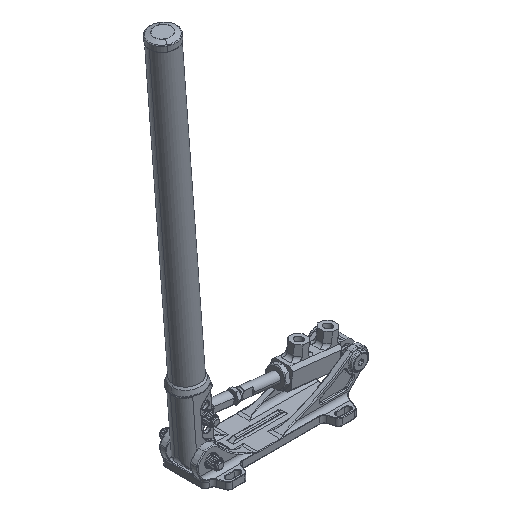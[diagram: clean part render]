
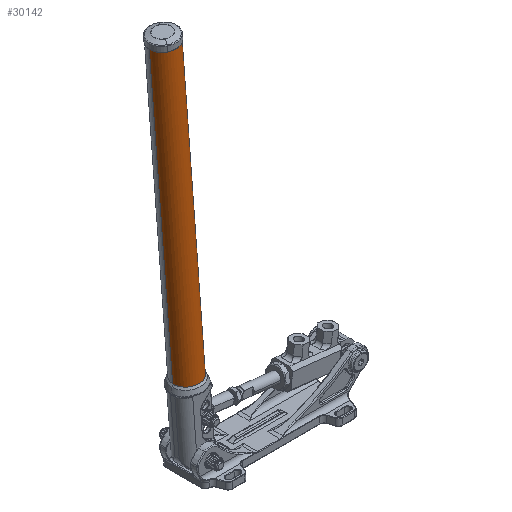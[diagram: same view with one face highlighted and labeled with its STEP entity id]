
A CAD part, isometric view. The second image highlights one B-rep face of the part: STEP entity #30142.
In plain terms, the highlighted cylindrical face has radius 15 mm (diameter 30 mm), a partial arc.
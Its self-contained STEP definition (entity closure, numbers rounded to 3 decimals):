
#94 = VERTEX_POINT ( 'NONE', #59053 ) ;
#3775 = VECTOR ( 'NONE', #40740, 1000. ) ;
#9978 = CARTESIAN_POINT ( 'NONE',  ( -147.621, 6.973, 109.669 ) ) ;
#12193 = DIRECTION ( 'NONE',  ( -0.077, 0., 0.997 ) ) ;
#12505 = AXIS2_PLACEMENT_3D ( 'NONE', #81975, #81467, #57641 ) ;
#13852 = EDGE_CURVE ( 'NONE', #94, #80234, #87240, .T. ) ;
#14504 = AXIS2_PLACEMENT_3D ( 'NONE', #20134, #12193, #60403 ) ;
#14777 = FACE_OUTER_BOUND ( 'NONE', #24349, .T. ) ;
#20134 = CARTESIAN_POINT ( 'NONE',  ( -158.844, 6.162, 449.814 ) ) ;
#22467 = CARTESIAN_POINT ( 'NONE',  ( -143.91, 5.351, 450.966 ) ) ;
#23229 = DIRECTION ( 'NONE',  ( 0.996, -0.054, 0.077 ) ) ;
#24349 = EDGE_LOOP ( 'NONE', ( #38919, #91503, #88782, #91376 ) ) ;
#24803 = LINE ( 'NONE', #91881, #3775 ) ;
#30142 = ADVANCED_FACE ( 'NONE', ( #14777 ), #47122, .T. ) ;
#34846 = VERTEX_POINT ( 'NONE', #58623 ) ;
#35468 = VECTOR ( 'NONE', #63285, 1000. ) ;
#38919 = ORIENTED_EDGE ( 'NONE', *, *, #13852, .F. ) ;
#40740 = DIRECTION ( 'NONE',  ( 0.077, 0., -0.997 ) ) ;
#47122 = CYLINDRICAL_SURFACE ( 'NONE', #102594, 15. ) ;
#53998 = EDGE_CURVE ( 'NONE', #95113, #34846, #102159, .T. ) ;
#57641 = DIRECTION ( 'NONE',  ( -0.996, 0.054, -0.077 ) ) ;
#58623 = CARTESIAN_POINT ( 'NONE',  ( -117.753, 5.351, 111.973 ) ) ;
#59053 = CARTESIAN_POINT ( 'NONE',  ( -173.777, 6.973, 448.661 ) ) ;
#60403 = DIRECTION ( 'NONE',  ( -0.996, 0.054, -0.077 ) ) ;
#63285 = DIRECTION ( 'NONE',  ( 0.077, 0., -0.997 ) ) ;
#79438 = DIRECTION ( 'NONE',  ( 0.077, 0., -0.997 ) ) ;
#80234 = VERTEX_POINT ( 'NONE', #99303 ) ;
#81344 = EDGE_CURVE ( 'NONE', #94, #95113, #24803, .T. ) ;
#81467 = DIRECTION ( 'NONE',  ( -0.077, 0., 0.997 ) ) ;
#81975 = CARTESIAN_POINT ( 'NONE',  ( -132.687, 6.162, 110.821 ) ) ;
#87240 = CIRCLE ( 'NONE', #14504, 15. ) ;
#88782 = ORIENTED_EDGE ( 'NONE', *, *, #53998, .T. ) ;
#91376 = ORIENTED_EDGE ( 'NONE', *, *, #101403, .F. ) ;
#91503 = ORIENTED_EDGE ( 'NONE', *, *, #81344, .T. ) ;
#91881 = CARTESIAN_POINT ( 'NONE',  ( -173.777, 6.973, 448.661 ) ) ;
#95113 = VERTEX_POINT ( 'NONE', #9978 ) ;
#95762 = CARTESIAN_POINT ( 'NONE',  ( -158.844, 6.162, 449.814 ) ) ;
#99303 = CARTESIAN_POINT ( 'NONE',  ( -143.91, 5.351, 450.966 ) ) ;
#101403 = EDGE_CURVE ( 'NONE', #80234, #34846, #102449, .T. ) ;
#102159 = CIRCLE ( 'NONE', #12505, 15. ) ;
#102449 = LINE ( 'NONE', #22467, #35468 ) ;
#102594 = AXIS2_PLACEMENT_3D ( 'NONE', #95762, #79438, #23229 ) ;
